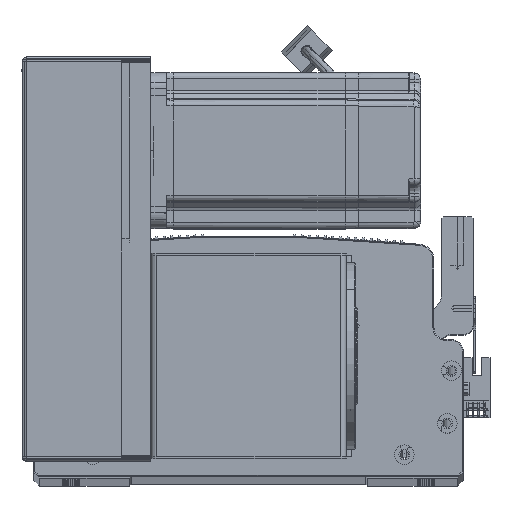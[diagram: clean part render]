
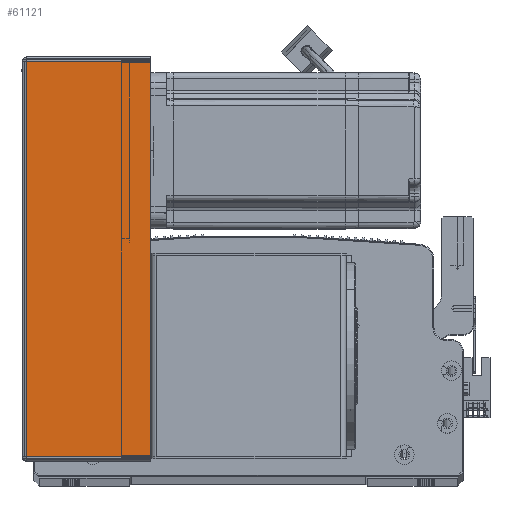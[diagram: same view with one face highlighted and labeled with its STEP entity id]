
A CAD part, top view. The second image highlights one B-rep face of the part: STEP entity #61121.
In plain terms, the highlighted planar face has unit normal (0, 0, 1) as drawn and (0, 1, 0) by its records, which use the part's own axes.
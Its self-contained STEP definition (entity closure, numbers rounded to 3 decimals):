
#3327 = VECTOR ( 'NONE', #18285, 1000. ) ;
#3651 = EDGE_CURVE ( 'NONE', #53970, #86071, #75267, .T. ) ;
#6641 = LINE ( 'NONE', #22601, #21518 ) ;
#18208 = DIRECTION ( 'NONE',  ( 1., 0., 0. ) ) ;
#18285 = DIRECTION ( 'NONE',  ( 1., 0., 0. ) ) ;
#21163 = VERTEX_POINT ( 'NONE', #61014 ) ;
#21518 = VECTOR ( 'NONE', #66461, 1000. ) ;
#22601 = CARTESIAN_POINT ( 'NONE',  ( 0.737, 107.5, 0. ) ) ;
#23725 = VERTEX_POINT ( 'NONE', #75510 ) ;
#25215 = EDGE_LOOP ( 'NONE', ( #54307, #25290, #83222, #85744 ) ) ;
#25290 = ORIENTED_EDGE ( 'NONE', *, *, #3651, .T. ) ;
#25388 = VECTOR ( 'NONE', #27861, 1000. ) ;
#25884 = EDGE_CURVE ( 'NONE', #86071, #21163, #33363, .T. ) ;
#26258 = CARTESIAN_POINT ( 'NONE',  ( 0., 107.5, -203.293 ) ) ;
#27457 = EDGE_CURVE ( 'NONE', #23725, #21163, #38747, .T. ) ;
#27861 = DIRECTION ( 'NONE',  ( 0., 0., -1. ) ) ;
#33363 = LINE ( 'NONE', #63736, #25388 ) ;
#34002 = VECTOR ( 'NONE', #63997, 1000. ) ;
#38747 = LINE ( 'NONE', #26258, #3327 ) ;
#48910 = CARTESIAN_POINT ( 'NONE',  ( 0., 107.5, -0.707 ) ) ;
#53970 = VERTEX_POINT ( 'NONE', #77146 ) ;
#54307 = ORIENTED_EDGE ( 'NONE', *, *, #54827, .F. ) ;
#54827 = EDGE_CURVE ( 'NONE', #53970, #23725, #6641, .T. ) ;
#61014 = CARTESIAN_POINT ( 'NONE',  ( 64.5, 107.5, -203.293 ) ) ;
#61121 = ADVANCED_FACE ( 'NONE', ( #74385 ), #62084, .F. ) ;
#62084 = PLANE ( 'NONE',  #91676 ) ;
#63736 = CARTESIAN_POINT ( 'NONE',  ( 64.5, 107.5, -204. ) ) ;
#63997 = DIRECTION ( 'NONE',  ( 1., 0., 0. ) ) ;
#66461 = DIRECTION ( 'NONE',  ( 0., 0., -1. ) ) ;
#74385 = FACE_OUTER_BOUND ( 'NONE', #25215, .T. ) ;
#75267 = LINE ( 'NONE', #48910, #34002 ) ;
#75510 = CARTESIAN_POINT ( 'NONE',  ( 0.737, 107.5, -203.293 ) ) ;
#75819 = DIRECTION ( 'NONE',  ( 0., -1., 0. ) ) ;
#77146 = CARTESIAN_POINT ( 'NONE',  ( 0.737, 107.5, -0.707 ) ) ;
#83222 = ORIENTED_EDGE ( 'NONE', *, *, #25884, .T. ) ;
#85744 = ORIENTED_EDGE ( 'NONE', *, *, #27457, .F. ) ;
#86071 = VERTEX_POINT ( 'NONE', #93809 ) ;
#91603 = CARTESIAN_POINT ( 'NONE',  ( 0., 107.5, 0. ) ) ;
#91676 = AXIS2_PLACEMENT_3D ( 'NONE', #91603, #75819, #18208 ) ;
#93809 = CARTESIAN_POINT ( 'NONE',  ( 64.5, 107.5, -0.707 ) ) ;
